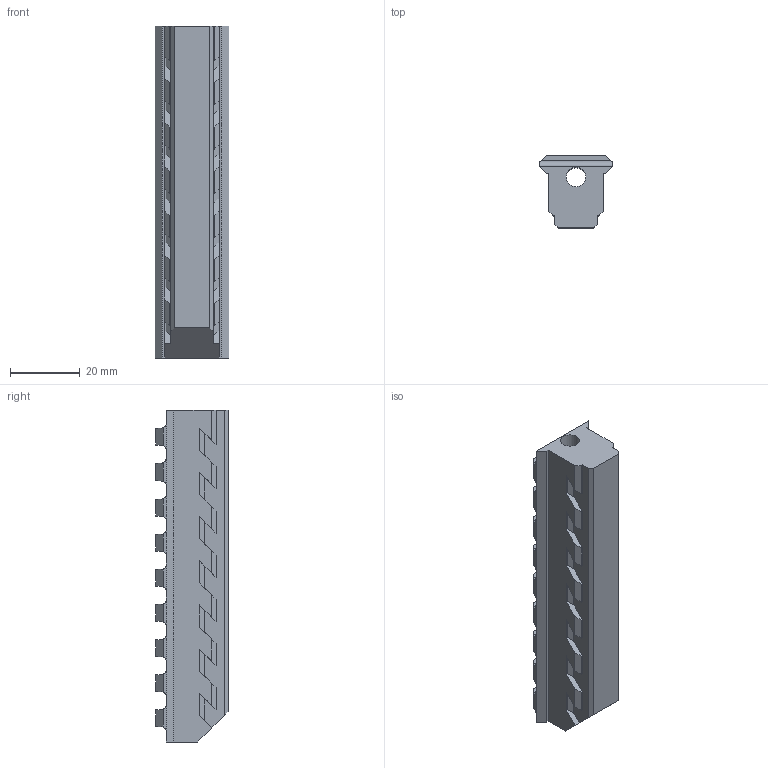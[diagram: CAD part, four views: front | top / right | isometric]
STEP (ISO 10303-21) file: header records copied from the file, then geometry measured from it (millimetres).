
FILE_DESCRIPTION(/* description */ ('Alibre Inc.'),/* implementation_level */ '2;1');
FILE_NAME(/* name */ 'export-D64CCBF4-68D4-4C7A-9D6C-F76E891E5C1B',/* time_stamp */ '2020-01-06T16:35:15-05:00',/* author */ (''),/* organization */ (''),/* preprocessor_version */ 'ST-DEVELOPER v17',/* originating_system */ 'Alibre',/* authorisation */ '');
FILE_SCHEMA (('AUTOMOTIVE_DESIGN'));
Length unit declared in the file: millimetre
Bounding box: 21.21 x 20.72 x 95.38 mm (x, y, z)
Volume: 24693.7 mm3; surface area: 10386.4 mm2
Topology: 1 solids, 1 shells, 196 faces, 582 edges, 388 vertices
Faces by surface type: plane 171, cylinder 25
Full cylindrical faces by diameter (mm): 5.588 x3
Entity records: 5803 total; most frequent: ORIENTED_EDGE 1158, CARTESIAN_POINT 1027, DIRECTION 744, EDGE_CURVE 579, VECTOR 415, LINE 415, VERTEX_POINT 388, AXIS2_PLACEMENT_3D 224
